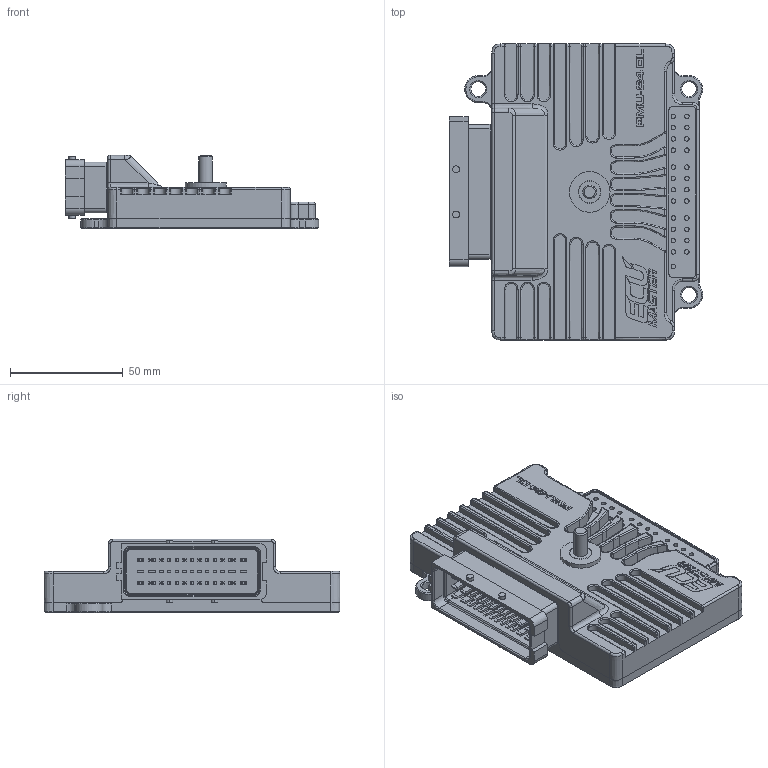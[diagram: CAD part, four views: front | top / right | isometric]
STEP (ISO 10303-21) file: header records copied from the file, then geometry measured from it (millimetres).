
FILE_DESCRIPTION (( 'STEP AP214' ), '1' );
FILE_NAME ('PMU24.STEP', '2023-09-20T10:42:43', ( '' ), ( '' ), 'SwSTEP 2.0', 'SolidWorks 2023', '' );
FILE_SCHEMA (( 'AUTOMOTIVE_DESIGN' ));
Length unit declared in the file: millimetre
Products named in the file (51): gniazdo-czarne-39pin-28; gniazdo-czarne-39pin-30; PDM24_case_upper_revA; gniazdo-czarne-39pin-8; gniazdo-czarne-39pin-12; PDM24_PCB Rev.C_Domy_X2_015b_X0_lna; gniazdo-czarne-39pin-29; gniazdo-czarne-39pin-33; gniazdo-czarne-39pin-37; gniazdo-czarne-39pin-35; gniazdo-czarne-39pin-20; PDM24_case_lower_revA; gniazdo-czarne-39pin-11; gniazdo-czarne-39pin-1; gniazdo-czarne-39pin-15; gniazdo-czarne-39pin-16; logo sticker; gniazdo-czarne-39pin-5; gniazdo-czarne-39pin-2; gniazdo-czarne-39pin-22; gniazdo-czarne-39pin-9; gniazdo-czarne-39pin-36; gniazdo-czarne-39pin-4; gniazdo-czarne-39pin-17; gniazdo-czarne-39pin-19; gniazdo-czarne-39pin-32; gniazdo-czarne-39pin-21; gniazdo-czarne-39pin-14; gniazdo-czarne-39pin; J_BLACK1-subassembly-1; gniazdo-czarne-39pin-26; gniazdo-czarne-39pin-34; PMU24_sticker; gniazdo-czarne-39pin-3; TR Fastenings Ltd-M3X8mm_M3X8mm; gniazdo-czarne-39pin-25; gniazdo-czarne-39pin-23; PDM24_shank_revB; gniazdo-czarne-39pin-6; PMU24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
Assembly tree (55 placements, depth 5):
  PMU24
    PDM24_shank_isolator_revB
    PDM24_shank_revB
    PDM24_case_lower_revA
    PDM24_case_upper_revA
    TR Fastenings Ltd-M3X8mm_M3X8mm  x6
    PDM24_PCB Rev.C_Domy_X2_015b_X0_lna
      J_BLACK1
        J_BLACK1-subassembly-1
          gniazdo-czarne-39pin
          gniazdo-czarne-39pin-1
          gniazdo-czarne-39pin-2
          gniazdo-czarne-39pin-3
          gniazdo-czarne-39pin-4
          gniazdo-czarne-39pin-5
          gniazdo-czarne-39pin-6
          gniazdo-czarne-39pin-7
          gniazdo-czarne-39pin-8
          gniazdo-czarne-39pin-9
          gniazdo-czarne-39pin-10
          gniazdo-czarne-39pin-11
          gniazdo-czarne-39pin-12
          gniazdo-czarne-39pin-13
          gniazdo-czarne-39pin-14
          gniazdo-czarne-39pin-15
          gniazdo-czarne-39pin-16
          gniazdo-czarne-39pin-17
          gniazdo-czarne-39pin-18
          gniazdo-czarne-39pin-19
          gniazdo-czarne-39pin-20
          gniazdo-czarne-39pin-21
          gniazdo-czarne-39pin-22
          gniazdo-czarne-39pin-23
          gniazdo-czarne-39pin-24
          gniazdo-czarne-39pin-25
          gniazdo-czarne-39pin-26
          gniazdo-czarne-39pin-27
          gniazdo-czarne-39pin-28
          gniazdo-czarne-39pin-29
          gniazdo-czarne-39pin-30
          gniazdo-czarne-39pin-31
          gniazdo-czarne-39pin-32
          gniazdo-czarne-39pin-33
          gniazdo-czarne-39pin-34
          gniazdo-czarne-39pin-35
          gniazdo-czarne-39pin-36
          gniazdo-czarne-39pin-37
          gniazdo-czarne-39pin-38
          gniazdo-czarne-39pin-39
    logo sticker
    PMU24_sticker
Bounding box: 112.1 x 131 x 32.5 mm (x, y, z)
Volume: 110348.9 mm3; surface area: 92966.7 mm2
Topology: 66 solids, 66 shells, 2665 faces, 6698 edges, 4208 vertices
Faces by surface type: plane 1605, cylinder 620, bspline 293, cone 117, torus 30
Entity records: 139983 total; most frequent: CARTESIAN_POINT 54414, ORIENTED_EDGE 12298, DIRECTION 10681, EDGE_CURVE 6149, LINE 4437, VECTOR 4437, VERTEX_POINT 3883, AXIS2_PLACEMENT_3D 3122
